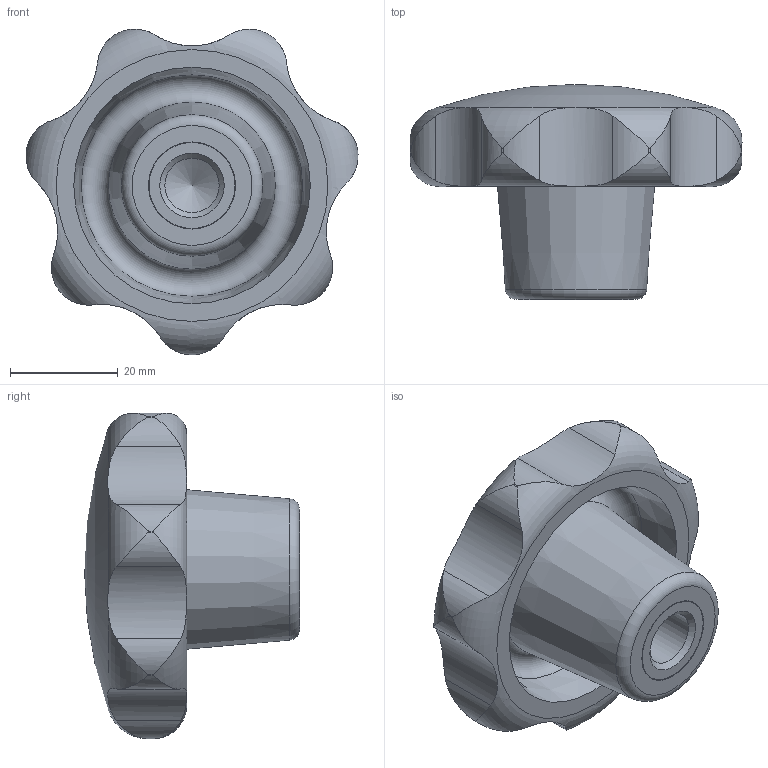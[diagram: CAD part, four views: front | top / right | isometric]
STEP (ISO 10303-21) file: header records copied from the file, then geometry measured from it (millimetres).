
FILE_DESCRIPTION( ( 'STEP AP203' ), '1' );
FILE_NAME( 'C:/Temp/Ganter_Step_05_03_2020/data/2_2/din_6336/din_6336_ku/din_6336_ku_k/Star knob DIN 6336-KU-63-M12-K-NI.stp', '2020-03-05T12:13:41', ( 'License CC BY-ND 4.0' ), ( 'CADENAS' ), ' ', 'PARTsolutions', ' ' );
FILE_SCHEMA( ( 'CONFIG_CONTROL_DESIGN' ) );
Length unit declared in the file: millimetre
Products named in the file (1): _Star knob DIN 6336-KU-63-M12-K-NI
Bounding box: 61.76 x 40 x 60.57 mm (x, y, z)
Volume: 45960.1 mm3; surface area: 11718.7 mm2
Topology: 1 solids, 1 shells, 50 faces, 133 edges, 87 vertices
Faces by surface type: cylinder 31, torus 10, cone 4, plane 4, sphere 1
Full cylindrical faces by diameter (mm): 10.106 x1, 16 x1, 16.2 x1
Entity records: 2254 total; most frequent: CARTESIAN_POINT 1108, ORIENTED_EDGE 236, DIRECTION 198, EDGE_CURVE 118, AXIS2_PLACEMENT_3D 85, VERTEX_POINT 85, EDGE_LOOP 63, FACE_OUTER_BOUND 56
